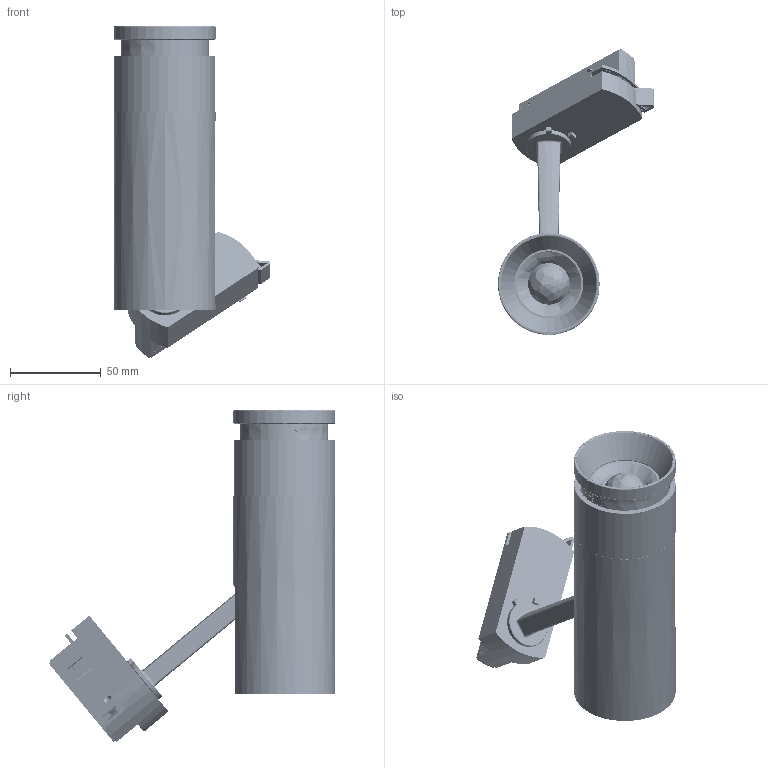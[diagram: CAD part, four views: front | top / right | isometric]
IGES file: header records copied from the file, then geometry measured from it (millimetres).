
Start section: SolidWorks IGES file using analytic representation for surfaces
Bounding box: 86 x 157.71 x 183.06 mm (x, y, z)
Surface area: 149400.5 mm2 (no closed solid volume)
Topology: 0 solids, 0 shells, 9308 faces, 66657 edges, 66559 vertices
Faces by surface type: bspline 8347, revolution 961
